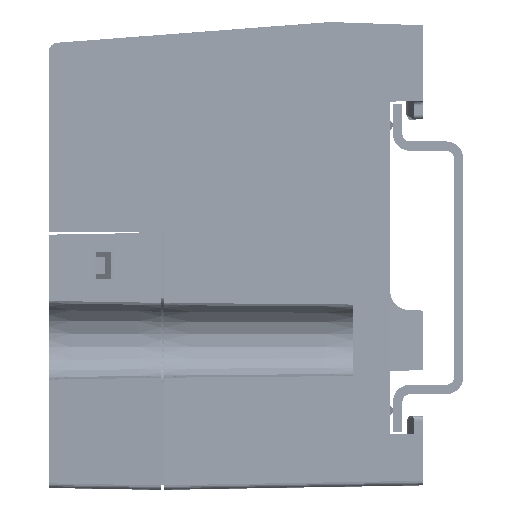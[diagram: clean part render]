
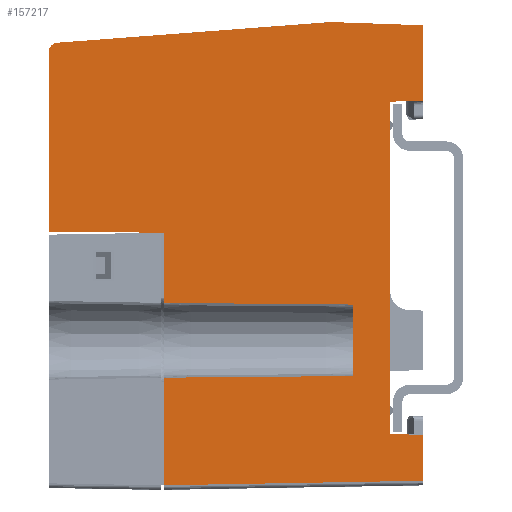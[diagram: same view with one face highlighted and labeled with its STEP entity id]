
A CAD part, left-side view. The second image highlights one B-rep face of the part: STEP entity #157217.
In plain terms, the highlighted planar face has unit normal (-1, -0.018, 0).
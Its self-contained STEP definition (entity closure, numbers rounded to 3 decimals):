
#143925=DIRECTION('',(0.,0.,-1.));
#143926=VECTOR('',#143925,6.7);
#143927=CARTESIAN_POINT('',(-89.572,3.5,-12.3));
#143928=LINE('',#143927,#143926);
#143958=DIRECTION('',(0.,0.,-1.));
#143959=VECTOR('',#143958,20.269);
#143960=CARTESIAN_POINT('',(-89.572,3.5,16.5));
#143961=LINE('',#143960,#143959);
#144112=DIRECTION('',(-0.017,0.999,-0.035));
#144113=VECTOR('',#144112,3.503);
#144114=CARTESIAN_POINT('',(-89.511,0.,
16.622));
#144115=LINE('',#144114,#144113);
#145711=DIRECTION('',(0.,0.,1.));
#145712=VECTOR('',#145711,4.889);
#145713=CARTESIAN_POINT('',(-89.511,0.,-24.011));
#145714=LINE('',#145713,#145712);
#145718=DIRECTION('',(0.017,-1.,0.017));
#145719=VECTOR('',#145718,27.708);
#145720=CARTESIAN_POINT('',(-89.995,27.7,-24.495));
#145721=LINE('',#145720,#145719);
#145725=DIRECTION('',(-0.017,1.,-0.009));
#145726=VECTOR('',#145725,20.204);
#145727=CARTESIAN_POINT('',(-89.642,7.5,-12.821));
#145728=LINE('',#145727,#145726);
#145732=DIRECTION('',(0.,0.,-1.));
#145733=VECTOR('',#145732,7.642);
#145734=CARTESIAN_POINT('',(-89.642,7.5,-5.179));
#145735=LINE('',#145734,#145733);
#145739=DIRECTION('',(0.017,-1.,-0.009));
#145740=VECTOR('',#145739,12.302);
#145741=CARTESIAN_POINT('',(-90.209,40.,2.605));
#145742=LINE('',#145741,#145740);
#145746=CARTESIAN_POINT('',(-90.193,39.075,
22.804));
#145747=CARTESIAN_POINT('',(-90.199,39.383,
22.78));
#145748=CARTESIAN_POINT('',(-90.206,39.775,
22.525));
#145749=CARTESIAN_POINT('',(-90.209,40.,22.116));
#145750=CARTESIAN_POINT('',(-90.209,40.,21.806));
#145755=DIRECTION('',(-0.017,0.997,-0.075));
#145756=VECTOR('',#145755,29.36);
#145757=CARTESIAN_POINT('',(-89.682,9.803,
25.011));
#145758=LINE('',#145757,#145756);
#145762=DIRECTION('',(-0.017,0.999,0.035));
#145763=VECTOR('',#145762,9.81);
#145764=CARTESIAN_POINT('',(-89.511,0.,
24.668));
#145765=LINE('',#145764,#145763);
#145769=DIRECTION('',(0.,0.,1.));
#145770=VECTOR('',#145769,8.046);
#145771=CARTESIAN_POINT('',(-89.511,0.,
16.622));
#145772=LINE('',#145771,#145770);
#145776=DIRECTION('',(0.,0.,1.));
#145777=VECTOR('',#145776,8.531);
#145778=CARTESIAN_POINT('',(-89.572,3.5,-12.3));
#145779=LINE('',#145778,#145777);
#145783=DIRECTION('',(-0.017,0.999,0.035));
#145784=VECTOR('',#145783,3.503);
#145785=CARTESIAN_POINT('',(-89.511,0.,
-19.122));
#145786=LINE('',#145785,#145784);
#145925=DIRECTION('',(0.,0.,1.));
#145926=VECTOR('',#145925,7.5);
#145927=CARTESIAN_POINT('',(-89.995,27.7,-5.003));
#145928=LINE('',#145927,#145926);
#145948=DIRECTION('',(0.,0.,1.));
#145949=VECTOR('',#145948,11.497);
#145950=CARTESIAN_POINT('',(-89.995,27.7,-24.495));
#145951=LINE('',#145950,#145949);
#146326=DIRECTION('',(0.,0.,1.));
#146327=VECTOR('',#146326,19.202);
#146328=CARTESIAN_POINT('',(-90.209,40.,2.605));
#146329=LINE('',#146328,#146327);
#150876=DIRECTION('',(-0.017,1.,0.009));
#150877=VECTOR('',#150876,20.204);
#150878=CARTESIAN_POINT('',(-89.642,7.5,-5.179));
#150879=LINE('',#150878,#150877);
#152897=CARTESIAN_POINT('',(-89.511,0.,
-19.122));
#152898=VERTEX_POINT('',#152897);
#152899=CARTESIAN_POINT('',(-89.511,0.,-24.011));
#152900=VERTEX_POINT('',#152899);
#152973=CARTESIAN_POINT('',(-89.572,3.5,16.5));
#152974=VERTEX_POINT('',#152973);
#152975=CARTESIAN_POINT('',(-89.572,3.5,
-3.769));
#152976=VERTEX_POINT('',#152975);
#152984=CARTESIAN_POINT('',(-89.572,3.5,-12.3));
#152985=VERTEX_POINT('',#152984);
#152986=CARTESIAN_POINT('',(-89.572,3.5,-19.));
#152987=VERTEX_POINT('',#152986);
#153141=CARTESIAN_POINT('',(-89.511,0.,
16.622));
#153142=VERTEX_POINT('',#153141);
#153143=CARTESIAN_POINT('',(-89.511,0.,
24.668));
#153144=VERTEX_POINT('',#153143);
#153145=CARTESIAN_POINT('',(-89.682,9.803,
25.011));
#153146=VERTEX_POINT('',#153145);
#153147=CARTESIAN_POINT('',(-90.193,39.075,
22.804));
#153148=VERTEX_POINT('',#153147);
#153149=VERTEX_POINT('',#145750);
#153150=CARTESIAN_POINT('',(-90.209,40.,2.605));
#153151=VERTEX_POINT('',#153150);
#153152=CARTESIAN_POINT('',(-89.995,27.7,2.497));
#153153=VERTEX_POINT('',#153152);
#153154=CARTESIAN_POINT('',(-89.995,27.7,-5.003));
#153155=VERTEX_POINT('',#153154);
#153156=CARTESIAN_POINT('',(-89.642,7.5,-5.179));
#153157=VERTEX_POINT('',#153156);
#153158=CARTESIAN_POINT('',(-89.642,7.5,-12.821));
#153159=VERTEX_POINT('',#153158);
#153160=CARTESIAN_POINT('',(-89.995,27.7,-12.997));
#153161=VERTEX_POINT('',#153160);
#153162=CARTESIAN_POINT('',(-89.995,27.7,-24.495));
#153163=VERTEX_POINT('',#153162);
#157180=CARTESIAN_POINT('',(-90.,28.,-28.293));
#157181=DIRECTION('',(-1.,-0.017,0.));
#157182=DIRECTION('',(0.,0.,-1.));
#157183=AXIS2_PLACEMENT_3D('',#157180,#157181,#157182);
#157184=PLANE('',#157183);
#157185=ORIENTED_EDGE('',*,*,#155113,.F.);
#157187=ORIENTED_EDGE('',*,*,#157186,.F.);
#157189=ORIENTED_EDGE('',*,*,#157188,.T.);
#157191=ORIENTED_EDGE('',*,*,#157190,.F.);
#157193=ORIENTED_EDGE('',*,*,#157192,.F.);
#157195=ORIENTED_EDGE('',*,*,#157194,.T.);
#157197=ORIENTED_EDGE('',*,*,#157196,.T.);
#157199=ORIENTED_EDGE('',*,*,#157198,.F.);
#157201=ORIENTED_EDGE('',*,*,#157200,.T.);
#157203=ORIENTED_EDGE('',*,*,#157202,.F.);
#157205=ORIENTED_EDGE('',*,*,#157204,.F.);
#157206=ORIENTED_EDGE('',*,*,#157160,.F.);
#157207=ORIENTED_EDGE('',*,*,#156247,.F.);
#157208=ORIENTED_EDGE('',*,*,#155675,.T.);
#157209=ORIENTED_EDGE('',*,*,#155524,.T.);
#157211=ORIENTED_EDGE('',*,*,#157210,.F.);
#157212=ORIENTED_EDGE('',*,*,#155512,.T.);
#157214=ORIENTED_EDGE('',*,*,#157213,.F.);
#157215=EDGE_LOOP('',(#157185,#157187,#157189,#157191,#157193,#157195,#157197,
#157199,#157201,#157203,#157205,#157206,#157207,#157208,#157209,#157211,#157212,
#157214));
#157216=FACE_OUTER_BOUND('',#157215,.F.);
#145751=B_SPLINE_CURVE_WITH_KNOTS('',3,(#145746,#145747,#145748,#145749,
#145750),.UNSPECIFIED.,.F.,.F.,(4,1,4),(0.,0.5,1.),.UNSPECIFIED.);
#155113=EDGE_CURVE('',#152900,#152898,#145714,.T.);
#155512=EDGE_CURVE('',#152985,#152987,#143928,.T.);
#155524=EDGE_CURVE('',#152974,#152976,#143961,.T.);
#155675=EDGE_CURVE('',#153142,#152974,#144115,.T.);
#156247=EDGE_CURVE('',#153142,#153144,#145772,.T.);
#157160=EDGE_CURVE('',#153144,#153146,#145765,.T.);
#157186=EDGE_CURVE('',#153163,#152900,#145721,.T.);
#157188=EDGE_CURVE('',#153163,#153161,#145951,.T.);
#157190=EDGE_CURVE('',#153159,#153161,#145728,.T.);
#157192=EDGE_CURVE('',#153157,#153159,#145735,.T.);
#157194=EDGE_CURVE('',#153157,#153155,#150879,.T.);
#157196=EDGE_CURVE('',#153155,#153153,#145928,.T.);
#157198=EDGE_CURVE('',#153151,#153153,#145742,.T.);
#157200=EDGE_CURVE('',#153151,#153149,#146329,.T.);
#157202=EDGE_CURVE('',#153148,#153149,#145751,.T.);
#157204=EDGE_CURVE('',#153146,#153148,#145758,.T.);
#157210=EDGE_CURVE('',#152985,#152976,#145779,.T.);
#157213=EDGE_CURVE('',#152898,#152987,#145786,.T.);
#157217=ADVANCED_FACE('',(#157216),#157184,.T.);
